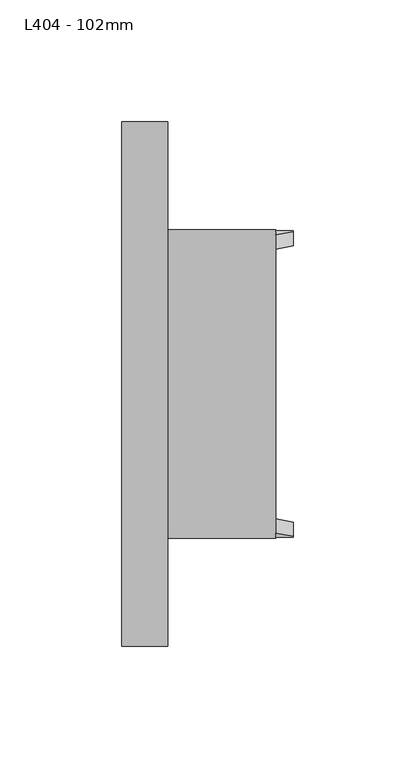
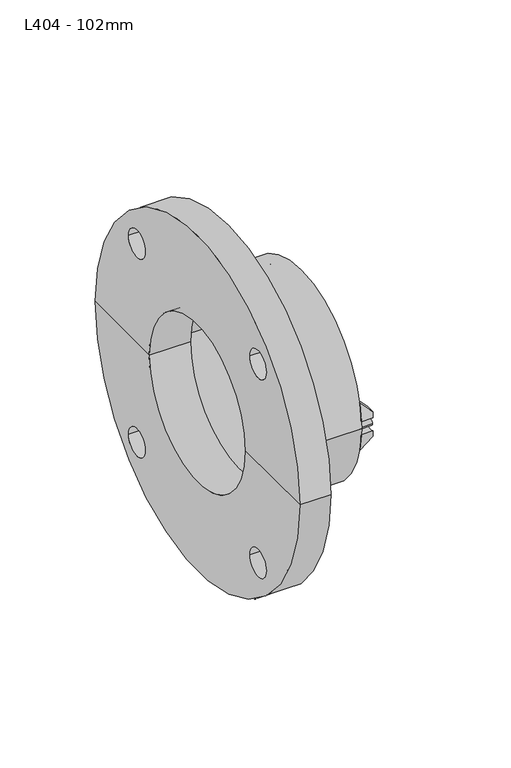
"""IFC4 building model written with IfcOpenShell, lengths in millimetres: pipe fitting geometry, Durapipe_PipeFitting_VulcatheneEnfusion_Flange_L40 : L404 - 102mm."""

from ifc_helpers import new_model, si_unit, point, frame, frame_2d, origin, place, context, project, spatial, polyline, circle_curve, ellipse_curve, trimmed, segment, composite_curve, outline, extrude, source, transform, mapped, element, save
from ifc_brep_helpers import plane_surface, cylinder_surface, revolved_surface, advanced_brep


def l404_102mm_889d63c8(model_context):
    return source(origin(), model_context, "Body", "SolidModel", [
        advanced_brep(
        [(38.65, -57.2098214, -4.0073473), (38.65, -62.9098214, -4.2020076), (38.65, -62.5480527, -7.94), (38.65, -56.7977015, -7.94), (31.55, -61.2397134, -15.0), (31.55, -62.9098214, -4.2020076), (31.55, -57.2098214, -4.0073473), (31.55, -55.3536133, -15.0)],
        [
            (0, 1, circle_curve(frame((38.65, -60.2, 0.0), z_axis=(-1.0, 0.0, 0.0), x_axis=(0.0, 1.0, 0.0)), 5.0)),
            (1, 2, circle_curve(frame((38.65, 0.0, 0.0), z_axis=(1.0, 0.0, 0.0), x_axis=(0.0, 1.0, 0.0)), 63.05)),
            (2, 3),
            (3, 0, circle_curve(frame((38.65, 0.0, 0.0), z_axis=(-1.0, 0.0, 0.0), x_axis=(0.0, 1.0, 0.0)), 57.35)),
            (4, 5, circle_curve(frame((31.55, 0.0, 0.0), z_axis=(-1.0, 0.0, 0.0), x_axis=(0.0, 1.0, 0.0)), 63.05)),
            (5, 6, circle_curve(frame((31.55, -60.2, 0.0), z_axis=(1.0, 0.0, 0.0), x_axis=(0.0, 1.0, 0.0)), 5.0)),
            (6, 7, circle_curve(frame((31.55, 0.0, 0.0), z_axis=(1.0, 0.0, 0.0), x_axis=(0.0, 1.0, 0.0)), 57.35)),
            (7, 4),
            (6, 0),
            (3, 7, ellipse_curve(frame((46.6349858, 0.0, 0.0), z_axis=(0.7051064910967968, 0.0, -0.7091014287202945), x_axis=(-0.7091014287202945, 0.0, -0.7051064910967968)), 81.3352319, 57.35)),
            (4, 2, ellipse_curve(frame((46.6349858, 0.0, 0.0), z_axis=(-0.7051064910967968, 0.0, 0.7091014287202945), x_axis=(0.7091014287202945, 0.0, 0.7051064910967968)), 89.4191172, 63.05)),
            (1, 5),
        ],
        [
            plane_surface(frame((38.65, -61.2397134, -15.0), z_axis=(1.0, 0.0, 0.0), x_axis=(0.0, 1.0, 0.0))),
            plane_surface(frame((31.55, -61.2397134, -15.0), z_axis=(-1.0, 0.0, 0.0), x_axis=(0.0, -1.0, 0.0))),
            revolved_surface(polyline([(-11.039943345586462, 57.35, 0.0), (104.30991494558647, 57.35, 0.0)]), (31.55, 0.0, 0.0), (-1.0, 0.0, 0.0)),
            cylinder_surface(frame((31.55, 0.0, 0.0), z_axis=(1.0, 0.0, 0.0), x_axis=(0.0, 1.0, 0.0)), 63.05),
            revolved_surface(polyline([(38.65, -55.2, 0.0), (31.55, -55.2, 0.0)]), (31.55, -60.2, 0.0), (1.0, 0.0, 0.0)),
            plane_surface(frame((31.55, 63.05, -15.0), z_axis=(0.7051064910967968, 0.0, -0.7091014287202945), x_axis=(0.0, -1.0, 0.0))),
        ],
        [
            (0, [[1, 2, 3, 4]]),
            (1, [[5, 6, 7, 8]]),
            (2, [[-7, 9, -4, 10]]),
            (3, [[-5, 11, -2, 12]]),
            (4, [[-1, -9, -6, -12]]),
            (5, [[-3, -11, -8, -10]]),
        ],
    ),
        advanced_brep(
        [(38.65, -62.9098214, 4.2020076), (38.65, -57.2098214, 4.0073473), (38.65, -56.7977015, 7.94), (38.65, -62.5480527, 7.94), (31.55, -62.9098214, 4.2020076), (31.55, -61.2397134, 15.0), (31.55, -55.3536133, 15.0), (31.55, -57.2098214, 4.0073473)],
        [
            (0, 1, circle_curve(frame((38.65, -60.2, 0.0), z_axis=(-1.0, 0.0, 0.0), x_axis=(0.0, 1.0, 0.0)), 5.0)),
            (1, 2, circle_curve(frame((38.65, 0.0, 0.0), z_axis=(-1.0, 0.0, 0.0), x_axis=(0.0, 1.0, 0.0)), 57.35)),
            (2, 3),
            (3, 0, circle_curve(frame((38.65, 0.0, 0.0), z_axis=(1.0, 0.0, 0.0), x_axis=(0.0, 1.0, 0.0)), 63.05)),
            (4, 5, circle_curve(frame((31.55, 0.0, 0.0), z_axis=(-1.0, 0.0, 0.0), x_axis=(0.0, 1.0, 0.0)), 63.05)),
            (5, 6),
            (6, 7, circle_curve(frame((31.55, 0.0, 0.0), z_axis=(1.0, 0.0, 0.0), x_axis=(0.0, 1.0, 0.0)), 57.35)),
            (7, 4, circle_curve(frame((31.55, -60.2, 0.0), z_axis=(1.0, 0.0, 0.0), x_axis=(0.0, 1.0, 0.0)), 5.0)),
            (6, 2, ellipse_curve(frame((46.6349858, 0.0, 0.0), z_axis=(0.7051064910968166, 0.0, 0.7091014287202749), x_axis=(-0.7091014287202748, 0.0, 0.7051064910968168)), 81.3352319, 57.35)),
            (1, 7),
            (4, 0),
            (3, 5, ellipse_curve(frame((46.6349858, 0.0, 0.0), z_axis=(-0.7051064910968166, 0.0, -0.7091014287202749), x_axis=(0.7091014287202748, 0.0, -0.7051064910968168)), 89.4191172, 63.05)),
        ],
        [
            plane_surface(frame((38.65, -61.2397134, -15.0), z_axis=(1.0, 0.0, 0.0), x_axis=(0.0, 1.0, 0.0))),
            plane_surface(frame((31.55, -61.2397134, -15.0), z_axis=(-1.0, 0.0, 0.0), x_axis=(0.0, -1.0, 0.0))),
            revolved_surface(polyline([(-11.03994334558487, 57.35, 0.0), (104.30991494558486, 57.35, 0.0)]), (31.55, 0.0, 0.0), (-1.0, 0.0, 0.0)),
            cylinder_surface(frame((31.55, 0.0, 0.0), z_axis=(1.0, 0.0, 0.0), x_axis=(0.0, 1.0, 0.0)), 63.05),
            revolved_surface(polyline([(38.65, -55.2, 0.0), (31.55, -55.2, 0.0)]), (31.55, -60.2, 0.0), (1.0, 0.0, 0.0)),
            plane_surface(frame((38.65, 63.05, 7.94), z_axis=(0.7051064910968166, 0.0, 0.7091014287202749), x_axis=(0.0, -1.0, 0.0))),
        ],
        [
            (0, [[1, 2, 3, 4]]),
            (1, [[5, 6, 7, 8]]),
            (2, [[-7, 9, -2, 10]]),
            (3, [[-5, 11, -4, 12]]),
            (4, [[-1, -11, -8, -10]]),
            (5, [[-3, -9, -6, -12]]),
        ],
    ),
        advanced_brep(
        [(38.65, 62.9098214, -4.2020076), (38.65, 57.2098214, -4.0073473), (38.65, 56.7977015, -7.94), (38.65, 62.5480527, -7.94), (31.55, 62.9098214, -4.2020076), (31.55, 61.2397134, -15.0), (31.55, 55.3536133, -15.0), (31.55, 57.2098214, -4.0073473)],
        [
            (0, 1, circle_curve(frame((38.65, 60.2, 0.0), z_axis=(-1.0, 0.0, 0.0), x_axis=(0.0, 1.0, 0.0)), 5.0)),
            (1, 2, circle_curve(frame((38.65, 0.0, 0.0), z_axis=(-1.0, 0.0, 0.0), x_axis=(0.0, 1.0, 0.0)), 57.35)),
            (2, 3),
            (3, 0, circle_curve(frame((38.65, 0.0, 0.0), z_axis=(1.0, 0.0, 0.0), x_axis=(0.0, 1.0, 0.0)), 63.05)),
            (4, 5, circle_curve(frame((31.55, 0.0, 0.0), z_axis=(-1.0, 0.0, 0.0), x_axis=(0.0, 1.0, 0.0)), 63.05)),
            (5, 6),
            (6, 7, circle_curve(frame((31.55, 0.0, 0.0), z_axis=(1.0, 0.0, 0.0), x_axis=(0.0, 1.0, 0.0)), 57.35)),
            (7, 4, circle_curve(frame((31.55, 60.2, 0.0), z_axis=(1.0, 0.0, 0.0), x_axis=(0.0, 1.0, 0.0)), 5.0)),
            (6, 2, ellipse_curve(frame((46.6349858, 0.0, 0.0), z_axis=(0.7051064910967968, 0.0, -0.7091014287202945), x_axis=(-0.7091014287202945, 0.0, -0.7051064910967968)), 81.3352319, 57.35)),
            (1, 7),
            (4, 0),
            (3, 5, ellipse_curve(frame((46.6349858, 0.0, 0.0), z_axis=(-0.7051064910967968, 0.0, 0.7091014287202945), x_axis=(0.7091014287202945, 0.0, 0.7051064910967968)), 89.4191172, 63.05)),
        ],
        [
            plane_surface(frame((38.65, -61.2397134, -15.0), z_axis=(1.0, 0.0, 0.0), x_axis=(0.0, 1.0, 0.0))),
            plane_surface(frame((31.55, -61.2397134, -15.0), z_axis=(-1.0, 0.0, 0.0), x_axis=(0.0, -1.0, 0.0))),
            revolved_surface(polyline([(-11.039943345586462, 57.35, 0.0), (104.30991494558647, 57.35, 0.0)]), (31.55, 0.0, 0.0), (-1.0, 0.0, 0.0)),
            cylinder_surface(frame((31.55, 0.0, 0.0), z_axis=(1.0, 0.0, 0.0), x_axis=(0.0, 1.0, 0.0)), 63.05),
            revolved_surface(polyline([(38.65, 65.2, 0.0), (31.55, 65.2, 0.0)]), (31.55, 60.2, 0.0), (1.0, 0.0, 0.0)),
            plane_surface(frame((31.55, 63.05, -15.0), z_axis=(0.7051064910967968, 0.0, -0.7091014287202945), x_axis=(0.0, -1.0, 0.0))),
        ],
        [
            (0, [[1, 2, 3, 4]]),
            (1, [[5, 6, 7, 8]]),
            (2, [[-7, 9, -2, 10]]),
            (3, [[-5, 11, -4, 12]]),
            (4, [[-1, -11, -8, -10]]),
            (5, [[-3, -9, -6, -12]]),
        ],
    ),
        advanced_brep(
        [(38.65, 57.2098214, 4.0073473), (38.65, 62.9098214, 4.2020076), (38.65, 62.5480527, 7.94), (38.65, 56.7977015, 7.94), (31.55, 61.2397134, 15.0), (31.55, 62.9098214, 4.2020076), (31.55, 57.2098214, 4.0073473), (31.55, 55.3536133, 15.0)],
        [
            (0, 1, circle_curve(frame((38.65, 60.2, 0.0), z_axis=(-1.0, 0.0, 0.0), x_axis=(0.0, 1.0, 0.0)), 5.0)),
            (1, 2, circle_curve(frame((38.65, 0.0, 0.0), z_axis=(1.0, 0.0, 0.0), x_axis=(0.0, 1.0, 0.0)), 63.05)),
            (2, 3),
            (3, 0, circle_curve(frame((38.65, 0.0, 0.0), z_axis=(-1.0, 0.0, 0.0), x_axis=(0.0, 1.0, 0.0)), 57.35)),
            (4, 5, circle_curve(frame((31.55, 0.0, 0.0), z_axis=(-1.0, 0.0, 0.0), x_axis=(0.0, 1.0, 0.0)), 63.05)),
            (5, 6, circle_curve(frame((31.55, 60.2, 0.0), z_axis=(1.0, 0.0, 0.0), x_axis=(0.0, 1.0, 0.0)), 5.0)),
            (6, 7, circle_curve(frame((31.55, 0.0, 0.0), z_axis=(1.0, 0.0, 0.0), x_axis=(0.0, 1.0, 0.0)), 57.35)),
            (7, 4),
            (6, 0),
            (3, 7, ellipse_curve(frame((46.6349858, 0.0, 0.0), z_axis=(0.7051064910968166, 0.0, 0.7091014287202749), x_axis=(-0.7091014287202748, 0.0, 0.7051064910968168)), 81.3352319, 57.35)),
            (4, 2, ellipse_curve(frame((46.6349858, 0.0, 0.0), z_axis=(-0.7051064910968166, 0.0, -0.7091014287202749), x_axis=(0.7091014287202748, 0.0, -0.7051064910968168)), 89.4191172, 63.05)),
            (1, 5),
        ],
        [
            plane_surface(frame((38.65, -61.2397134, -15.0), z_axis=(1.0, 0.0, 0.0), x_axis=(0.0, 1.0, 0.0))),
            plane_surface(frame((31.55, -61.2397134, -15.0), z_axis=(-1.0, 0.0, 0.0), x_axis=(0.0, -1.0, 0.0))),
            revolved_surface(polyline([(-11.03994334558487, 57.35, 0.0), (104.30991494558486, 57.35, 0.0)]), (31.55, 0.0, 0.0), (-1.0, 0.0, 0.0)),
            cylinder_surface(frame((31.55, 0.0, 0.0), z_axis=(1.0, 0.0, 0.0), x_axis=(0.0, 1.0, 0.0)), 63.05),
            revolved_surface(polyline([(38.65, 65.2, 0.0), (31.55, 65.2, 0.0)]), (31.55, 60.2, 0.0), (1.0, 0.0, 0.0)),
            plane_surface(frame((38.65, 63.05, 7.94), z_axis=(0.7051064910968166, 0.0, 0.7091014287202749), x_axis=(0.0, -1.0, 0.0))),
        ],
        [
            (0, [[1, 2, 3, 4]]),
            (1, [[5, 6, 7, 8]]),
            (2, [[-7, 9, -4, 10]]),
            (3, [[-5, 11, -2, 12]]),
            (4, [[-1, -9, -6, -12]]),
            (5, [[-3, -11, -8, -10]]),
        ],
    ),
        extrude(outline(composite_curve([segment(trimmed(circle_curve(frame_2d((-60.2, 0.0)), 2.0), [point((-62.2, 0.0))], [point((-58.2, 0.0))], False, "CARTESIAN"), True, "CONTINUOUS"), segment(trimmed(circle_curve(frame_2d((-60.2, 0.0)), 2.0), [point((-58.2, 0.0))], [point((-62.2, 0.0))], False, "CARTESIAN"), True, "CONTINUOUS")], self_intersect=False)), frame((31.55, 0.0, 0.0), z_axis=(1.0, 0.0, 0.0), x_axis=(0.0, 1.0, 0.0)), (0.0, 0.0, 1.0), 7.1),
        extrude(outline(composite_curve([segment(trimmed(circle_curve(frame_2d((60.2, 0.0)), 2.0), [point((58.2, 0.0))], [point((62.2, 0.0))], False, "CARTESIAN"), True, "CONTINUOUS"), segment(trimmed(circle_curve(frame_2d((60.2, 0.0)), 2.0), [point((62.2, 0.0))], [point((58.2, 0.0))], False, "CARTESIAN"), True, "CONTINUOUS")], self_intersect=False)), frame((31.55, 0.0, 0.0), z_axis=(1.0, 0.0, 0.0), x_axis=(0.0, 1.0, 0.0)), (0.0, 0.0, 1.0), 7.1),
        advanced_brep(
        [(-31.55, -50.6, 0.0), (-31.55, 50.6, 0.0), (-31.55, 107.5, 0.0), (-31.55, -107.5, 0.0), (-31.55, -72.3396103, -63.6396103), (-31.55, -54.9396103, -63.6396103), (-31.55, 54.9396103, -63.6396103), (-31.55, 72.3396103, -63.6396103), (-31.55, 54.9396103, 63.6396103), (-31.55, 72.3396103, 63.6396103), (-31.55, -72.3396103, 63.6396103), (-31.55, -54.9396103, 63.6396103), (-6.55, -50.6, 0.0), (-6.55, 50.6, 0.0), (-6.55, -57.2, 0.0), (-6.55, 57.2, 0.0), (31.55, -57.2, 0.0), (31.55, 57.2, 0.0), (31.55, -63.2, 0.0), (31.55, 63.2, 0.0), (-12.75, -63.2, 0.0), (-12.75, 63.2, 0.0), (-12.75, -107.5, 0.0), (-12.75, 107.5, 0.0), (-12.75, -54.9396103, -63.6396103), (-12.75, -72.3396103, -63.6396103), (-12.75, 72.3396103, -63.6396103), (-12.75, 54.9396103, -63.6396103), (-12.75, 72.3396103, 63.6396103), (-12.75, 54.9396103, 63.6396103), (-12.75, -54.9396103, 63.6396103), (-12.75, -72.3396103, 63.6396103)],
        [
            (0, 1, circle_curve(frame((-31.55, 0.0, 0.0), z_axis=(1.0, 0.0, 0.0), x_axis=(0.0, 1.0, 0.0)), 50.6)),
            (1, 2),
            (2, 3, circle_curve(frame((-31.55, 0.0, 0.0), z_axis=(-1.0, 0.0, 0.0), x_axis=(0.0, 1.0, 0.0)), 107.5)),
            (3, 0),
            (4, 5, circle_curve(frame((-31.55, -63.6396103, -63.6396103), z_axis=(1.0, 0.0, 0.0), x_axis=(0.0, 1.0, 0.0)), 8.7)),
            (5, 4, circle_curve(frame((-31.55, -63.6396103, -63.6396103), z_axis=(1.0, 0.0, 0.0), x_axis=(0.0, 1.0, 0.0)), 8.7)),
            (6, 7, circle_curve(frame((-31.55, 63.6396103, -63.6396103), z_axis=(1.0, 0.0, 0.0), x_axis=(0.0, 1.0, 0.0)), 8.7)),
            (7, 6, circle_curve(frame((-31.55, 63.6396103, -63.6396103), z_axis=(1.0, 0.0, 0.0), x_axis=(0.0, 1.0, 0.0)), 8.7)),
            (1, 0, circle_curve(frame((-31.55, 0.0, 0.0), z_axis=(1.0, 0.0, 0.0), x_axis=(0.0, 1.0, 0.0)), 50.6)),
            (3, 2, circle_curve(frame((-31.55, 0.0, 0.0), z_axis=(-1.0, 0.0, 0.0), x_axis=(0.0, 1.0, 0.0)), 107.5)),
            (8, 9, circle_curve(frame((-31.55, 63.6396103, 63.6396103), z_axis=(1.0, 0.0, 0.0), x_axis=(0.0, 1.0, 0.0)), 8.7)),
            (9, 8, circle_curve(frame((-31.55, 63.6396103, 63.6396103), z_axis=(1.0, 0.0, 0.0), x_axis=(0.0, 1.0, 0.0)), 8.7)),
            (10, 11, circle_curve(frame((-31.55, -63.6396103, 63.6396103), z_axis=(1.0, 0.0, 0.0), x_axis=(0.0, 1.0, 0.0)), 8.7)),
            (11, 10, circle_curve(frame((-31.55, -63.6396103, 63.6396103), z_axis=(1.0, 0.0, 0.0), x_axis=(0.0, 1.0, 0.0)), 8.7)),
            (0, 12),
            (12, 13, circle_curve(frame((-6.55, 0.0, 0.0), z_axis=(1.0, 0.0, 0.0), x_axis=(0.0, 1.0, 0.0)), 50.6)),
            (13, 1),
            (13, 12, circle_curve(frame((-6.55, 0.0, 0.0), z_axis=(1.0, 0.0, 0.0), x_axis=(0.0, 1.0, 0.0)), 50.6)),
            (12, 14),
            (14, 15, circle_curve(frame((-6.55, 0.0, 0.0), z_axis=(1.0, 0.0, 0.0), x_axis=(0.0, 1.0, 0.0)), 57.2)),
            (15, 13),
            (15, 14, circle_curve(frame((-6.55, 0.0, 0.0), z_axis=(1.0, 0.0, 0.0), x_axis=(0.0, 1.0, 0.0)), 57.2)),
            (14, 16),
            (16, 17, circle_curve(frame((31.55, 0.0, 0.0), z_axis=(1.0, 0.0, 0.0), x_axis=(0.0, 1.0, 0.0)), 57.2)),
            (17, 15),
            (17, 16, circle_curve(frame((31.55, 0.0, 0.0), z_axis=(1.0, 0.0, 0.0), x_axis=(0.0, 1.0, 0.0)), 57.2)),
            (16, 18),
            (18, 19, circle_curve(frame((31.55, 0.0, 0.0), z_axis=(1.0, 0.0, 0.0), x_axis=(0.0, 1.0, 0.0)), 63.2)),
            (19, 17),
            (19, 18, circle_curve(frame((31.55, 0.0, 0.0), z_axis=(1.0, 0.0, 0.0), x_axis=(0.0, 1.0, 0.0)), 63.2)),
            (18, 20),
            (20, 21, circle_curve(frame((-12.75, 0.0, 0.0), z_axis=(1.0, 0.0, 0.0), x_axis=(0.0, 1.0, 0.0)), 63.2)),
            (21, 19),
            (21, 20, circle_curve(frame((-12.75, 0.0, 0.0), z_axis=(1.0, 0.0, 0.0), x_axis=(0.0, 1.0, 0.0)), 63.2)),
            (20, 22),
            (22, 23, circle_curve(frame((-12.75, 0.0, 0.0), z_axis=(1.0, 0.0, 0.0), x_axis=(0.0, 1.0, 0.0)), 107.5)),
            (23, 21),
            (24, 25, circle_curve(frame((-12.75, -63.6396103, -63.6396103), z_axis=(-1.0, 0.0, 0.0), x_axis=(0.0, 1.0, 0.0)), 8.7)),
            (25, 24, circle_curve(frame((-12.75, -63.6396103, -63.6396103), z_axis=(-1.0, 0.0, 0.0), x_axis=(0.0, 1.0, 0.0)), 8.7)),
            (26, 27, circle_curve(frame((-12.75, 63.6396103, -63.6396103), z_axis=(-1.0, 0.0, 0.0), x_axis=(0.0, 1.0, 0.0)), 8.7)),
            (27, 26, circle_curve(frame((-12.75, 63.6396103, -63.6396103), z_axis=(-1.0, 0.0, 0.0), x_axis=(0.0, 1.0, 0.0)), 8.7)),
            (23, 22, circle_curve(frame((-12.75, 0.0, 0.0), z_axis=(1.0, 0.0, 0.0), x_axis=(0.0, 1.0, 0.0)), 107.5)),
            (28, 29, circle_curve(frame((-12.75, 63.6396103, 63.6396103), z_axis=(-1.0, 0.0, 0.0), x_axis=(0.0, 1.0, 0.0)), 8.7)),
            (29, 28, circle_curve(frame((-12.75, 63.6396103, 63.6396103), z_axis=(-1.0, 0.0, 0.0), x_axis=(0.0, 1.0, 0.0)), 8.7)),
            (30, 31, circle_curve(frame((-12.75, -63.6396103, 63.6396103), z_axis=(-1.0, 0.0, 0.0), x_axis=(0.0, 1.0, 0.0)), 8.7)),
            (31, 30, circle_curve(frame((-12.75, -63.6396103, 63.6396103), z_axis=(-1.0, 0.0, 0.0), x_axis=(0.0, 1.0, 0.0)), 8.7)),
            (2, 23),
            (22, 3),
            (28, 9),
            (8, 29),
            (30, 11),
            (10, 31),
            (24, 5),
            (4, 25),
            (26, 7),
            (6, 27),
        ],
        [
            plane_surface(frame((-31.55, 0.0, 0.0), z_axis=(-1.0, 0.0, 0.0), x_axis=(0.0, 1.0, 0.0))),
            revolved_surface(polyline([(-31.549999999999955, 50.6, 0.0), (-6.5499999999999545, 50.6, 0.0)]), (1574.0272424, 0.0, 0.0), (-1.0, 0.0, 0.0)),
            plane_surface(frame((-6.55, 0.0, 0.0), z_axis=(1.0, 0.0, 0.0), x_axis=(0.0, 1.0, 0.0))),
            revolved_surface(polyline([(-6.5499999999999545, 57.2, 0.0), (31.549999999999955, 57.2, 0.0)]), (1574.0272424, 0.0, 0.0), (-1.0, 0.0, 0.0)),
            plane_surface(frame((31.55, 0.0, 0.0), z_axis=(1.0, 0.0, 0.0), x_axis=(0.0, 1.0, 0.0))),
            cylinder_surface(frame((1574.0272424, 0.0, 0.0), z_axis=(-1.0, 0.0, 0.0), x_axis=(0.0, 1.0, 0.0)), 63.2),
            plane_surface(frame((-12.75, 0.0, 0.0), z_axis=(1.0, 0.0, 0.0), x_axis=(0.0, 1.0, 0.0))),
            cylinder_surface(frame((1574.0272424, 0.0, 0.0), z_axis=(-1.0, 0.0, 0.0), x_axis=(0.0, 1.0, 0.0)), 107.5),
            revolved_surface(polyline([(-12.75, 72.3396103, 63.6396103), (-31.55, 72.3396103, 63.6396103)]), (-31.55, 63.6396103, 63.6396103), (1.0, 0.0, 0.0)),
            revolved_surface(polyline([(-12.75, -54.9396103, 63.6396103), (-31.55, -54.9396103, 63.6396103)]), (0.0, -63.6396103, 63.6396103), (1.0, 0.0, 0.0)),
            revolved_surface(polyline([(-12.75, -54.9396103, -63.6396103), (-31.55, -54.9396103, -63.6396103)]), (0.0, -63.6396103, -63.6396103), (1.0, 0.0, 0.0)),
            revolved_surface(polyline([(-12.75, 72.3396103, -63.6396103), (-31.55, 72.3396103, -63.6396103)]), (0.0, 63.6396103, -63.6396103), (1.0, 0.0, 0.0)),
        ],
        [
            (0, [[1, 2, 3, 4], [5, 6], [7, 8]]),
            (0, [[-2, 9, -4, 10], [11, 12], [13, 14]]),
            (1, [[-1, 15, 16, 17]]),
            (1, [[-9, -17, 18, -15]]),
            (2, [[-16, 19, 20, 21]]),
            (2, [[-18, -21, 22, -19]]),
            (3, [[-20, 23, 24, 25]]),
            (3, [[-22, -25, 26, -23]]),
            (4, [[-24, 27, 28, 29]]),
            (4, [[-26, -29, 30, -27]]),
            (5, [[-28, 31, 32, 33]]),
            (5, [[-30, -33, 34, -31]]),
            (6, [[-32, 35, 36, 37], [38, 39], [40, 41]]),
            (6, [[-34, -37, 42, -35], [43, 44], [45, 46]]),
            (7, [[-3, 47, -36, 48]]),
            (7, [[-10, -48, -42, -47]]),
            (8, [[49, -11, 50, -43]]),
            (8, [[-49, -44, -50, -12]]),
            (9, [[51, -13, 52, -45]]),
            (9, [[-51, -46, -52, -14]]),
            (10, [[53, -5, 54, -38]]),
            (10, [[-53, -39, -54, -6]]),
            (11, [[55, -7, 56, -40]]),
            (11, [[-55, -41, -56, -8]]),
        ],
    ),
    ])


if __name__ == "__main__":
    model = new_model("IFC4")
    model_context = context("Model", 3, world=origin())
    ifc_project = project(units=[si_unit("LENGTHUNIT", "METRE", prefix="MILLI")], contexts=[model_context])
    site = spatial("IfcSite", under=ifc_project)
    building = spatial("IfcBuilding", under=site)
    placement = place(None, origin())
    l404_102mm_shape = l404_102mm_889d63c8(model_context)
    element("IfcPipeFitting", 1, ObjectType="Durapipe_PipeFitting_VulcatheneEnfusion_Flange_L40 : L404 - 102mm", at=placement, inside=building, context=model_context, shape_type="MappedRepresentation", body=[
        mapped(l404_102mm_shape, transform((0.0, 0.0, 0.0), x_axis=(1.0, 0.0, 0.0), y_axis=(0.0, 1.0, 0.0), z_axis=(0.0, 0.0, 1.0))),
    ])
    save(model, "model.ifc")
